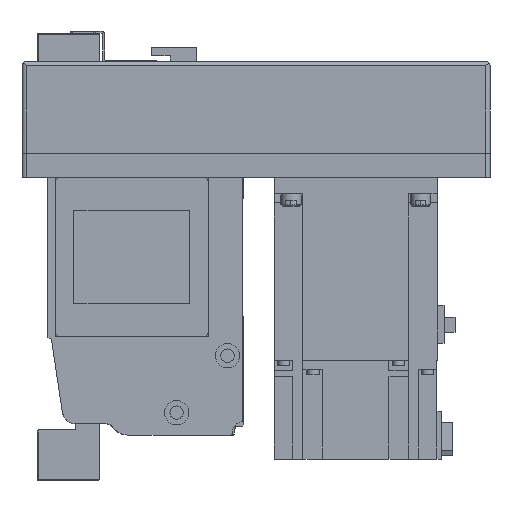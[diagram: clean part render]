
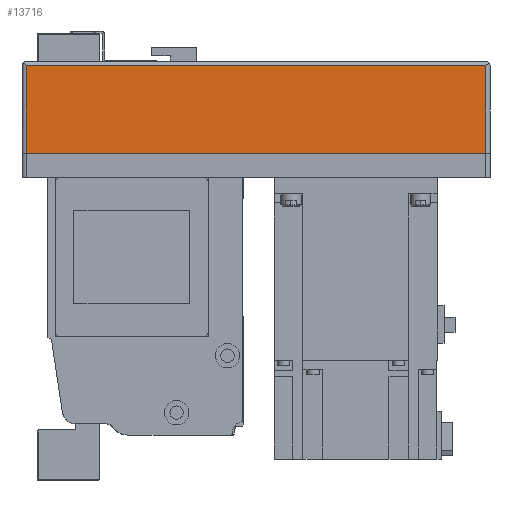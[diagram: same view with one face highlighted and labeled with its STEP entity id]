
A CAD part, left-side view. The second image highlights one B-rep face of the part: STEP entity #13716.
In plain terms, the highlighted planar face has unit normal (-1, 0, 0) as drawn and (0, -1, 0) by its records, which use the part's own axes.
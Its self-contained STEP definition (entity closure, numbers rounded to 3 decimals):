
#2361=ORIENTED_EDGE('',*,*,#5638,.F.);
#2362=ORIENTED_EDGE('',*,*,#5641,.T.);
#2363=ORIENTED_EDGE('',*,*,#5642,.T.);
#2364=ORIENTED_EDGE('',*,*,#5643,.F.);
#5638=EDGE_CURVE('',#7407,#7408,#8849,.T.);
#5641=EDGE_CURVE('',#7407,#7410,#8851,.T.);
#5642=EDGE_CURVE('',#7410,#7411,#8852,.T.);
#5643=EDGE_CURVE('',#7408,#7411,#8853,.T.);
#7407=VERTEX_POINT('',#21469);
#7408=VERTEX_POINT('',#21471);
#7410=VERTEX_POINT('',#21477);
#7411=VERTEX_POINT('',#21479);
#8849=LINE('',#21470,#10162);
#8851=LINE('',#21476,#10164);
#8852=LINE('',#21478,#10165);
#8853=LINE('',#21480,#10166);
#10162=VECTOR('',#17152,1000.);
#10164=VECTOR('',#17158,1000.);
#10165=VECTOR('',#17159,1000.);
#10166=VECTOR('',#17160,1000.);
#11286=EDGE_LOOP('',(#2361,#2362,#2363,#2364));
#12289=FACE_BOUND('',#11286,.T.);
#13142=PLANE('',#14712);
#13716=ADVANCED_FACE('',(#12289),#13142,.T.);
#14712=AXIS2_PLACEMENT_3D('',#21475,#17156,#17157);
#17152=DIRECTION('',(0.,0.,1.));
#17156=DIRECTION('',(0.,-1.,0.));
#17157=DIRECTION('',(0.,0.,-1.));
#17158=DIRECTION('',(1.,0.,0.));
#17159=DIRECTION('',(0.,0.,1.));
#17160=DIRECTION('',(1.,0.,0.));
#21469=CARTESIAN_POINT('',(-228.,-54.,-55.));
#21470=CARTESIAN_POINT('',(-228.,-54.,-57.));
#21471=CARTESIAN_POINT('',(-228.,-54.,-12.));
#21475=CARTESIAN_POINT('',(-228.,-54.,-57.));
#21476=CARTESIAN_POINT('',(-230.,-54.,-55.));
#21477=CARTESIAN_POINT('',(-2.,-54.,-55.));
#21478=CARTESIAN_POINT('',(-2.,-54.,-57.));
#21479=CARTESIAN_POINT('',(-2.,-54.,-12.));
#21480=CARTESIAN_POINT('',(-228.,-54.,-12.));
